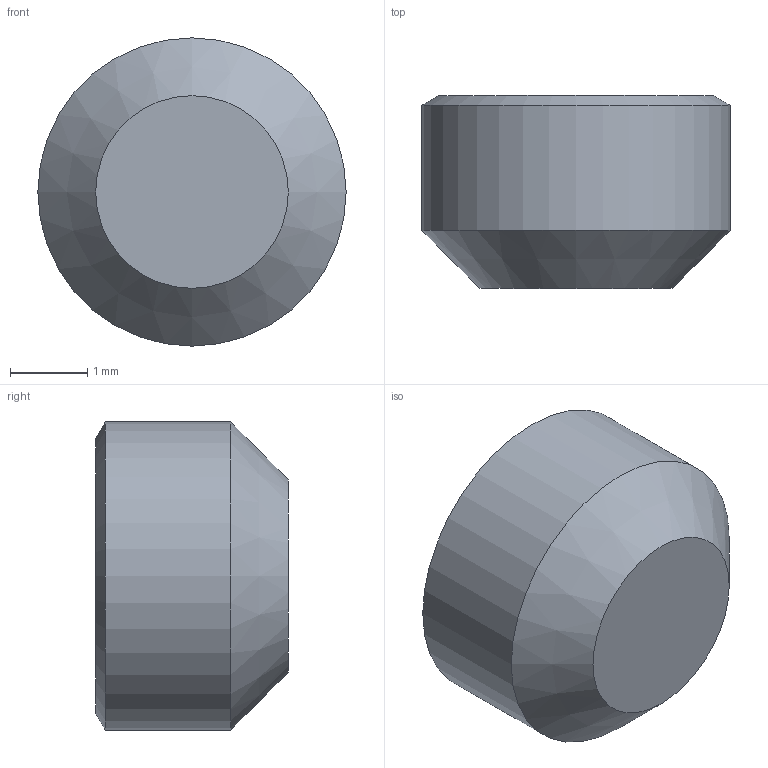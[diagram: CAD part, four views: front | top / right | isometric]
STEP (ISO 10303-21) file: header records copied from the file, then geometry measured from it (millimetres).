
FILE_DESCRIPTION(/* description */ (''),/* implementation_level */ '2;1');
FILE_NAME(/* name */ 'C:\Users\D\Documents\Inventor\各種小物\JIS\止めねじ\平先\M4\M4x2.5.stp',/* time_stamp */ '2022-06-23T14:24:21+09:00',/* author */ ('D'),/* organization */ (''),/* preprocessor_version */ 'ST-DEVELOPER v18',/* originating_system */ 'Autodesk Inventor 2020',/* authorisation */ '');
FILE_SCHEMA (('AUTOMOTIVE_DESIGN { 1 0 10303 214 3 1 1 }'));
Length unit declared in the file: millimetre
Products named in the file (1): M1.6x2
Bounding box: 4 x 2.5 x 4 mm (x, y, z)
Volume: 22.1 mm3; surface area: 60.4 mm2
Topology: 1 solids, 1 shells, 12 faces, 28 edges, 18 vertices
Faces by surface type: plane 8, cone 3, cylinder 1
Full cylindrical faces by diameter (mm): 4 x1
Entity records: 369 total; most frequent: CARTESIAN_POINT 72, ORIENTED_EDGE 54, DIRECTION 50, EDGE_CURVE 27, VERTEX_POINT 18, AXIS2_PLACEMENT_3D 17, LINE 16, VECTOR 16
